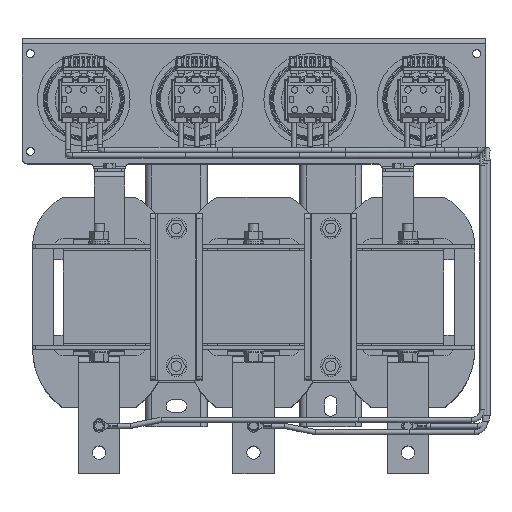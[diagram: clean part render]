
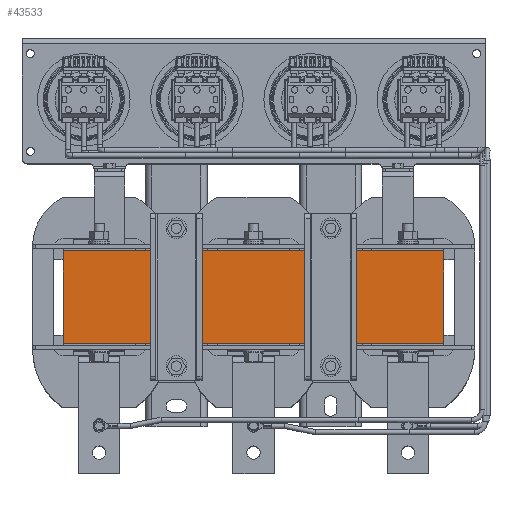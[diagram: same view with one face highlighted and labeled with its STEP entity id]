
A CAD part, top view. The second image highlights one B-rep face of the part: STEP entity #43533.
In plain terms, the highlighted planar face has unit normal (0, 0, 1).
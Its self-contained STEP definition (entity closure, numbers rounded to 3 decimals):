
#2534 = CARTESIAN_POINT ( 'NONE',  ( -185., -143.457, 460. ) ) ;
#3612 = LINE ( 'NONE', #2534, #7436 ) ;
#7436 = VECTOR ( 'NONE', #60799, 1000. ) ;
#12909 = LINE ( 'NONE', #53756, #83025 ) ;
#15429 = VERTEX_POINT ( 'NONE', #31203 ) ;
#19441 = ORIENTED_EDGE ( 'NONE', *, *, #89125, .T. ) ;
#21231 = ORIENTED_EDGE ( 'NONE', *, *, #52032, .T. ) ;
#23038 = CARTESIAN_POINT ( 'NONE',  ( -200., -143.457, 460. ) ) ;
#23403 = CARTESIAN_POINT ( 'NONE',  ( 0., -71.457, 460. ) ) ;
#25317 = EDGE_CURVE ( 'NONE', #32091, #15429, #82120, .T. ) ;
#31203 = CARTESIAN_POINT ( 'NONE',  ( 185., -71.457, 460. ) ) ;
#32091 = VERTEX_POINT ( 'NONE', #58067 ) ;
#32311 = FACE_OUTER_BOUND ( 'NONE', #104061, .T. ) ;
#40438 = DIRECTION ( 'NONE',  ( 0., 0., 1. ) ) ;
#43533 = ADVANCED_FACE ( 'NONE', ( #32311 ), #97585, .T. ) ;
#44973 = CARTESIAN_POINT ( 'NONE',  ( -185., 18.543, 460. ) ) ;
#46120 = DIRECTION ( 'NONE',  ( -1., 0., 0. ) ) ;
#52032 = EDGE_CURVE ( 'NONE', #66224, #15429, #97958, .T. ) ;
#53756 = CARTESIAN_POINT ( 'NONE',  ( -200., 18.543, 460. ) ) ;
#55864 = ORIENTED_EDGE ( 'NONE', *, *, #25317, .F. ) ;
#56613 = DIRECTION ( 'NONE',  ( 1., 0., 0. ) ) ;
#58067 = CARTESIAN_POINT ( 'NONE',  ( 185., 18.543, 460. ) ) ;
#60799 = DIRECTION ( 'NONE',  ( 0., -1., 0. ) ) ;
#64760 = DIRECTION ( 'NONE',  ( 0., -1., 0. ) ) ;
#66224 = VERTEX_POINT ( 'NONE', #76039 ) ;
#66747 = ORIENTED_EDGE ( 'NONE', *, *, #96100, .T. ) ;
#76039 = CARTESIAN_POINT ( 'NONE',  ( -185., -71.457, 460. ) ) ;
#82120 = LINE ( 'NONE', #83189, #98670 ) ;
#83025 = VECTOR ( 'NONE', #46120, 1000. ) ;
#83189 = CARTESIAN_POINT ( 'NONE',  ( 185., -143.457, 460. ) ) ;
#89125 = EDGE_CURVE ( 'NONE', #32091, #95969, #12909, .T. ) ;
#89443 = DIRECTION ( 'NONE',  ( 1., 0., 0. ) ) ;
#91968 = VECTOR ( 'NONE', #56613, 1000. ) ;
#95969 = VERTEX_POINT ( 'NONE', #44973 ) ;
#96100 = EDGE_CURVE ( 'NONE', #95969, #66224, #3612, .T. ) ;
#97585 = PLANE ( 'NONE',  #106556 ) ;
#97958 = LINE ( 'NONE', #23403, #91968 ) ;
#98670 = VECTOR ( 'NONE', #64760, 1000. ) ;
#104061 = EDGE_LOOP ( 'NONE', ( #55864, #19441, #66747, #21231 ) ) ;
#106556 = AXIS2_PLACEMENT_3D ( 'NONE', #23038, #40438, #89443 ) ;
